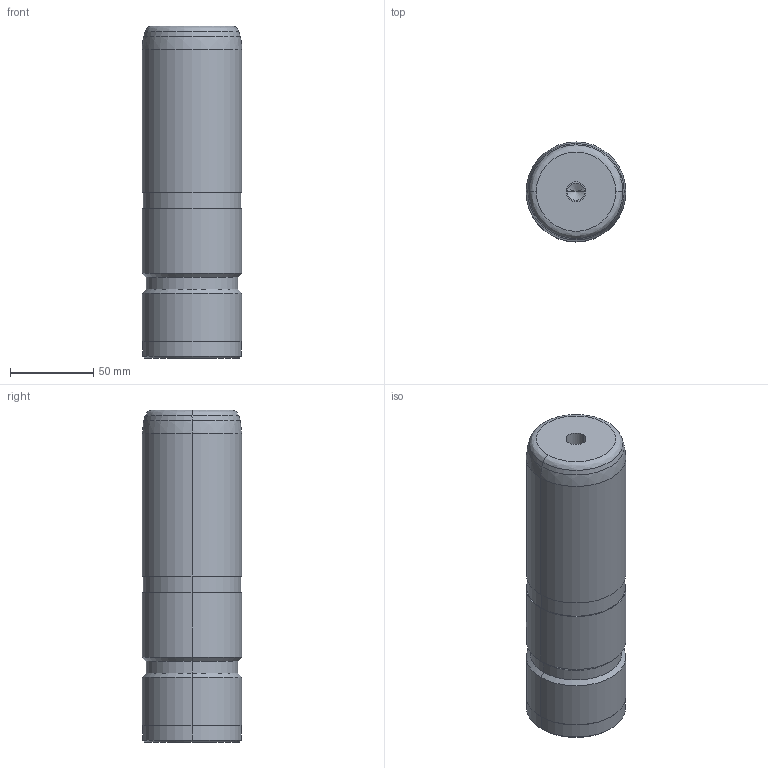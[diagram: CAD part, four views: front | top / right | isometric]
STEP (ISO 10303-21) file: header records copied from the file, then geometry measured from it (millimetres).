
FILE_DESCRIPTION((''),'2;1');
FILE_NAME('','2010-08-31T09:44:59+09:00',('misumi'),(''),'M/STEP i/f 1R2-14','CADmeister v5.1','');
FILE_SCHEMA(('AUTOMOTIVE_DESIGN'));
Length unit declared in the file: millimetre
Products named in the file (1): GPM60-200
Bounding box: 60 x 60 x 200 mm (x, y, z)
Volume: 553395.8 mm3; surface area: 44029.1 mm2
Topology: 1 solids, 1 shells, 36 faces, 72 edges, 41 vertices
Faces by surface type: cylinder 16, cone 10, plane 6, revolution 4
Entity records: 1024 total; most frequent: DIRECTION 188, CARTESIAN_POINT 158, ORIENTED_EDGE 140, AXIS2_PLACEMENT_3D 79, EDGE_CURVE 70, CIRCLE 46, VERTEX_POINT 41, EDGE_LOOP 41
